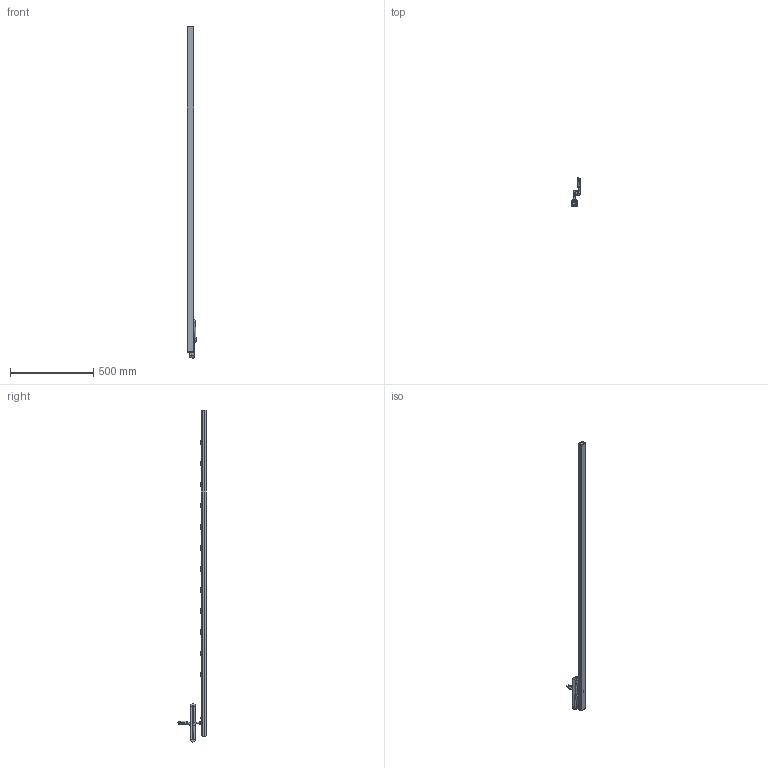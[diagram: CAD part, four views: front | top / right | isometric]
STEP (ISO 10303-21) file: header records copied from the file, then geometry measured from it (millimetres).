
FILE_DESCRIPTION(/* description */ (''),/* implementation_level */ '2;1');
FILE_NAME(/* name */ 'E:\Manufacturing\drawings\Web Drawings\POWER BARS\Surge Protection\1585, 87, 88 ''S'' series\STEP''s\1588T12A1S.stp',/* time_stamp */ '2019-01-14T12:58:46-05:00',/* author */ ('tfoster'),/* organization */ (''),/* preprocessor_version */ 'ST-DEVELOPER v17',/* originating_system */ 'Autodesk Inventor 2019',/* authorisation */ '');
FILE_SCHEMA (('AUTOMOTIVE_DESIGN { 1 0 10303 214 3 1 1 }'));
Length unit declared in the file: inch
Products named in the file (12): 1588T12A1S; 1588H12 top; 1588 bottom; End Cap; End Cap w breaker; Reset Switch; #27017; Cored 2; Surge Light; tamper proof screw; Receptacle; Power light
Assembly tree (25 placements, depth 2):
  1588T12A1S
    1588H12 top
    1588 bottom
    End Cap
    End Cap w breaker
    Reset Switch
    #27017  x4
    Cored 2
    Surge Light
    tamper proof screw
    Receptacle  x12
    Power light
Bounding box: 60.19 x 170.82 x 1999.39 mm (x, y, z)
Volume: 705343.3 mm3; surface area: 724554.2 mm2
Topology: 25 solids, 25 shells, 1323 faces, 3534 edges, 2241 vertices
Faces by surface type: plane 762, cylinder 370, bspline 91, sphere 55, cone 31, torus 14
Full cylindrical faces by diameter (mm): 1.803 x3, 1.905 x2, 2.13 x20, 3 x2, 3.175 x12, 3.505 x12, 4.775 x1, 4.826 x1, 6.858 x1, 7.747 x1, 8 x1, 9.5 x5, 9.652 x1, 11 x1, 15.621 x1, 19.05 x2
Entity records: 26763 total; most frequent: CARTESIAN_POINT 10201, ORIENTED_EDGE 3528, DIRECTION 3074, EDGE_CURVE 1764, VERTEX_POINT 1167, LINE 1086, VECTOR 1086, AXIS2_PLACEMENT_3D 994
